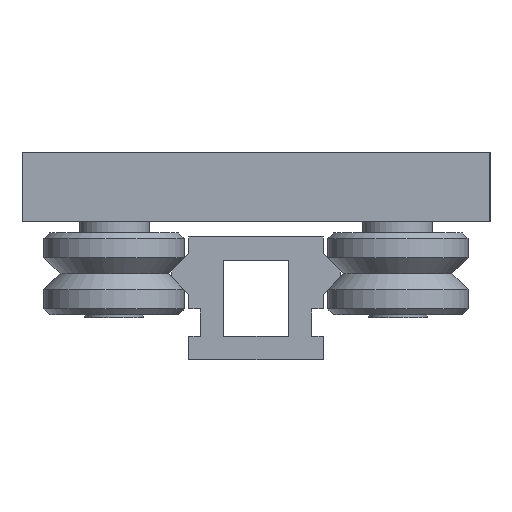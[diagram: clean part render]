
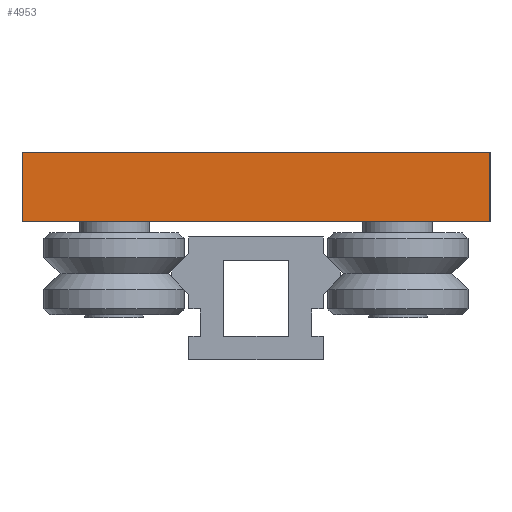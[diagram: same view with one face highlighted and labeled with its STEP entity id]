
A CAD part, left-side view. The second image highlights one B-rep face of the part: STEP entity #4953.
In plain terms, the highlighted planar face has unit normal (-1, 0, 0).
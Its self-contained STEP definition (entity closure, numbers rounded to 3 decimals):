
#4764=CARTESIAN_POINT('',(181.016,40.0,35.5));
#4765=VERTEX_POINT('',#4764);
#4772=CARTESIAN_POINT('',(181.016,-40.0,35.5));
#4773=VERTEX_POINT('',#4772);
#4774=CARTESIAN_POINT('',(181.016,40.0,35.5));
#4775=DIRECTION('',(0.0,-1.0,0.0));
#4776=VECTOR('',#4775,80.0);
#4777=LINE('',#4774,#4776);
#4778=EDGE_CURVE('',#4765,#4773,#4777,.T.);
#4832=CARTESIAN_POINT('',(181.016,40.0,23.7));
#4833=VERTEX_POINT('',#4832);
#4840=CARTESIAN_POINT('',(181.016,40.0,23.7));
#4841=DIRECTION('',(0.0,0.0,1.0));
#4842=VECTOR('',#4841,11.8);
#4843=LINE('',#4840,#4842);
#4844=EDGE_CURVE('',#4833,#4765,#4843,.T.);
#4872=CARTESIAN_POINT('',(181.016,-40.0,23.7));
#4873=VERTEX_POINT('',#4872);
#4880=CARTESIAN_POINT('',(181.016,-40.0,23.7));
#4881=DIRECTION('',(0.0,1.0,0.0));
#4882=VECTOR('',#4881,80.0);
#4883=LINE('',#4880,#4882);
#4884=EDGE_CURVE('',#4873,#4833,#4883,.T.);
#4932=CARTESIAN_POINT('',(181.016,-40.0,35.5));
#4933=DIRECTION('',(0.0,0.0,-1.0));
#4934=VECTOR('',#4933,11.8);
#4935=LINE('',#4932,#4934);
#4936=EDGE_CURVE('',#4773,#4873,#4935,.T.);
#4942=CARTESIAN_POINT('',(181.016,0.,29.6));
#4943=DIRECTION('',(1.0,0.0,0.0));
#4944=DIRECTION('',(0.0,0.0,-1.0));
#4945=AXIS2_PLACEMENT_3D('',#4942,#4943,#4944);
#4946=PLANE('',#4945);
#4947=ORIENTED_EDGE('',*,*,#4936,.F.);
#4948=ORIENTED_EDGE('',*,*,#4778,.F.);
#4949=ORIENTED_EDGE('',*,*,#4844,.F.);
#4950=ORIENTED_EDGE('',*,*,#4884,.F.);
#4951=EDGE_LOOP('',(#4947,#4948,#4949,#4950));
#4952=FACE_OUTER_BOUND('',#4951,.T.);
#4953=ADVANCED_FACE('',(#4952),#4946,.F.);
